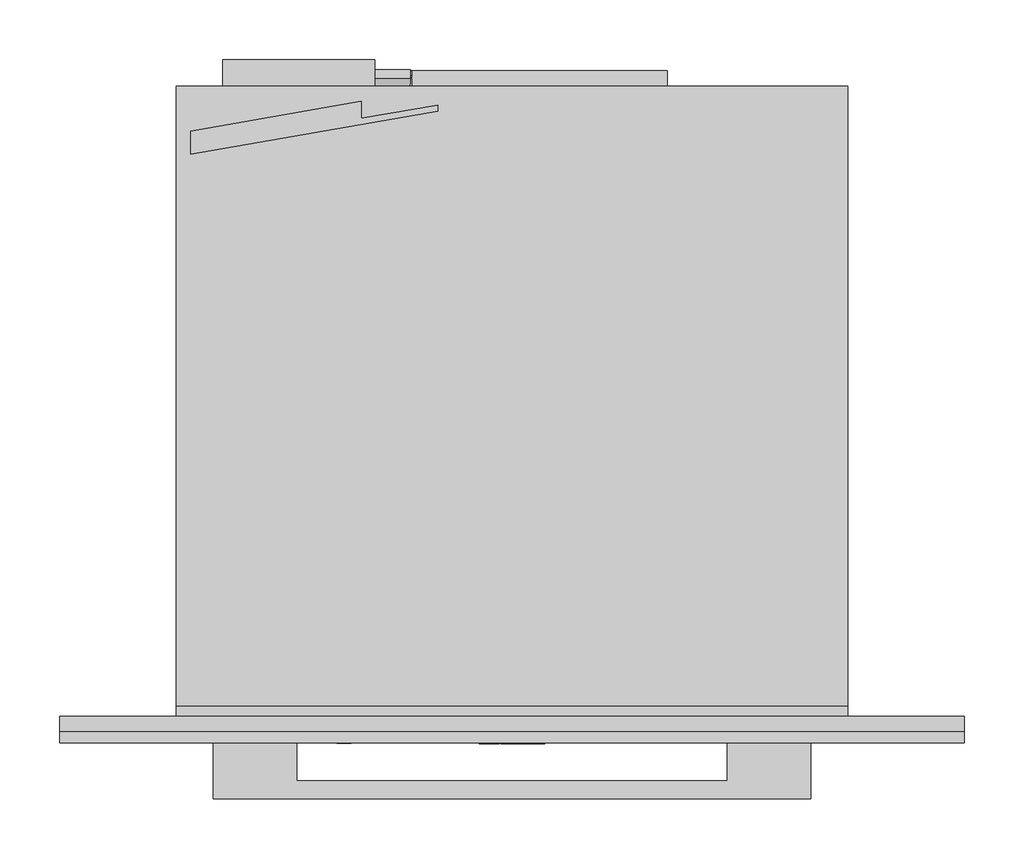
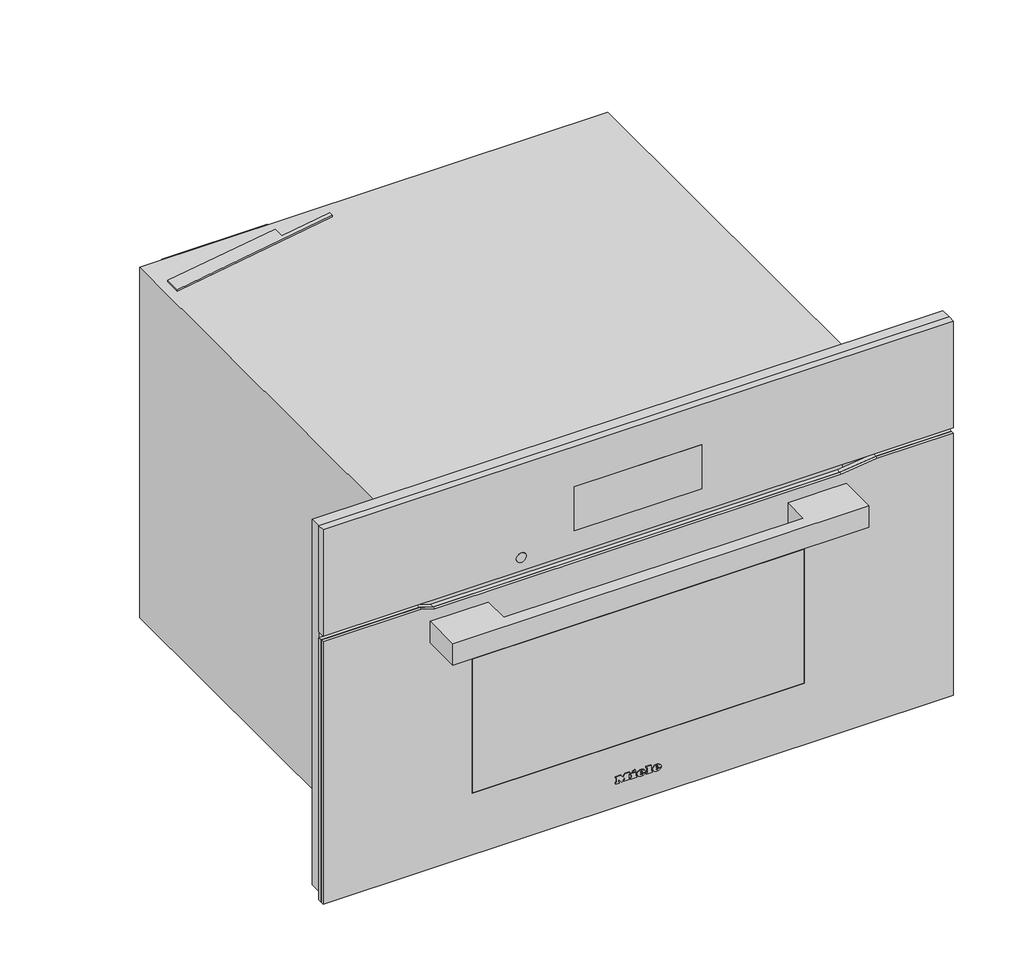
# Not in any storey: 1 proxy.
"""IFC4 building model written with IfcOpenShell, lengths in millimetres."""

from ifc_helpers import new_model, si_unit, origin, place, context, project, spatial, transform, mapped, element, save
from components import specialty_equipment_a14a19c3

model = new_model("IFC4")

# Units and contexts
model_context = context("Model", 3, world=origin())
ifc_project = project(units=[si_unit("LENGTHUNIT", "METRE", prefix="MILLI")], contexts=[model_context])

# Site, building
site = spatial("IfcSite", under=ifc_project)
building = spatial("IfcBuilding", under=site)

# Proxy
placement = place(None, origin())
specialty_equipment_shape = specialty_equipment_a14a19c3(model_context)
element("IfcBuildingElementProxy", 1, Name="11804690_USA_H7870BM_GRGR : 22787036_USA_11804690_H7870BM_GRGR", ObjectType="11804690_USA_H7870BM_GRGR : 22787036_USA_11804690_H7870BM_GRGR", at=placement, inside=building, context=model_context, shape_type="MappedRepresentation", body=[
    mapped(specialty_equipment_shape, transform((0.0, 0.0, 0.0), x_axis=(1.0, 0.0, 0.0), y_axis=(0.0, 1.0, 0.0), z_axis=(0.0, 0.0, 1.0))),
])

save(model, "model.ifc")
